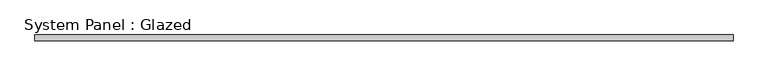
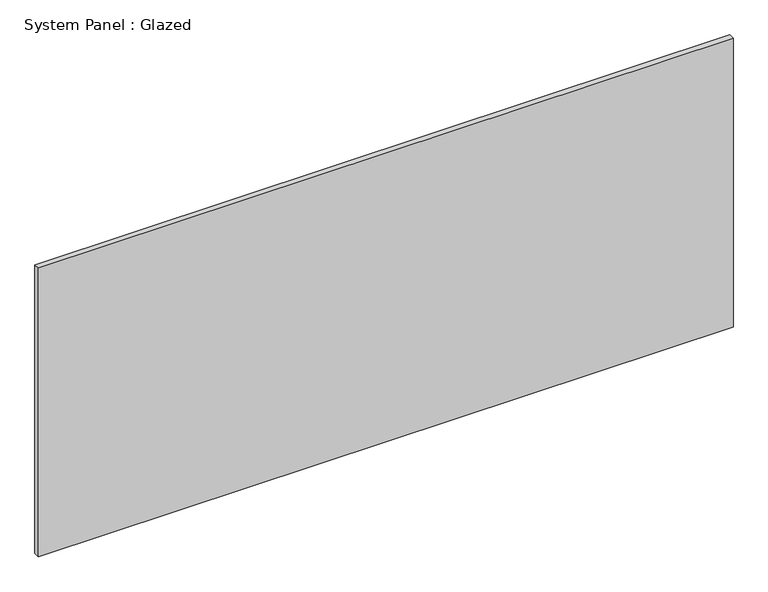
"""IFC4 building model written with IfcOpenShell, lengths in millimetres: plate geometry, System Panel : Glazed."""

from ifc_helpers import new_model, si_unit, origin, origin_with_axes, place, context, project, spatial, polyline, outline, extrude, source, transform, mapped, element, save


def system_panel_glazed_e6bc90fe(model_context):
    return source(origin(), model_context, "Body", "SweptSolid", [
        extrude(outline(polyline([(1524.0, 19.05), (-1524.0, 19.05), (-1524.0, 44.45), (1524.0, 44.45), (1524.0, 19.05)])), origin_with_axes(), (0.0, 0.0, 1.0), 1340.1963401),
    ])


if __name__ == "__main__":
    model = new_model("IFC4")
    model_context = context("Model", 3, world=origin())
    ifc_project = project(units=[si_unit("LENGTHUNIT", "METRE", prefix="MILLI")], contexts=[model_context])
    site = spatial("IfcSite", under=ifc_project)
    building = spatial("IfcBuilding", under=site)
    placement = place(None, origin())
    system_panel_glazed_shape = system_panel_glazed_e6bc90fe(model_context)
    element("IfcPlate", 1, ObjectType="System Panel : Glazed", at=placement, inside=building, context=model_context, shape_type="MappedRepresentation", body=[
        mapped(system_panel_glazed_shape, transform((0.0, 0.0, 0.0), x_axis=(1.0, 0.0, 0.0), y_axis=(0.0, 1.0, 0.0), z_axis=(0.0, 0.0, 1.0))),
    ])
    save(model, "model.ifc")
